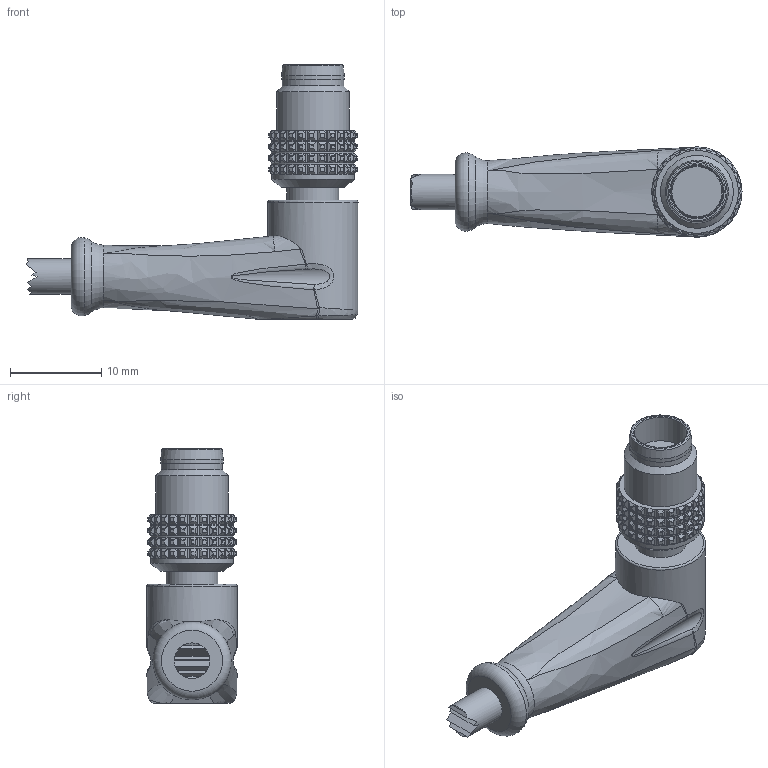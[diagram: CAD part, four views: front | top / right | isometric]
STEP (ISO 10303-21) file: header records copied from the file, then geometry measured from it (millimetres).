
FILE_DESCRIPTION((''),'2;1');
FILE_NAME('C:\Users\enrico\Desktop\Ale\Sito\AUTOMAZIONE_2020\Connettori circolari per sensori e attuatori\Singola testa\Step\M8 Ma ang.stp','2020-06-24T10:53:55',('Tecnico2'),(''),'Autodesk Inventor 2012','Autodesk Inventor 2012','');
FILE_SCHEMA(('AUTOMOTIVE_DESIGN { 1 0 10303 214 1 1 1 1 }'));
Length unit declared in the file: millimetre
Products named in the file (4): C08M3B1; bussola snap M8; ghiera M8 maschio x snap
Assembly tree (3 placements, depth 2):
  C08M3B1
    C08M3B1
    bussola snap M8
    ghiera M8 maschio x snap
Bounding box: 36.46 x 9.9 x 28 mm (x, y, z)
Volume: 3003.3 mm3; surface area: 2518.1 mm2
Topology: 3 solids, 3 shells, 1387 faces, 3980 edges, 2588 vertices
Faces by surface type: bspline 433, plane 321, cylinder 223, cone 184, sphere 114, torus 112
Full cylindrical faces by diameter (mm): 3.9 x1, 5.6 x1, 5.7 x2, 5.78 x2, 6.2 x2, 6.3 x1, 6.75 x1, 6.9 x1, 8 x1, 9.1 x4, 9.9 x1
Entity records: 64642 total; most frequent: CARTESIAN_POINT 34777, ORIENTED_EDGE 7852, DIRECTION 4235, EDGE_CURVE 3926, VERTEX_POINT 2584, AXIS2_PLACEMENT_3D 1861, B_SPLINE_CURVE_WITH_KNOTS 1738, EDGE_LOOP 1430
